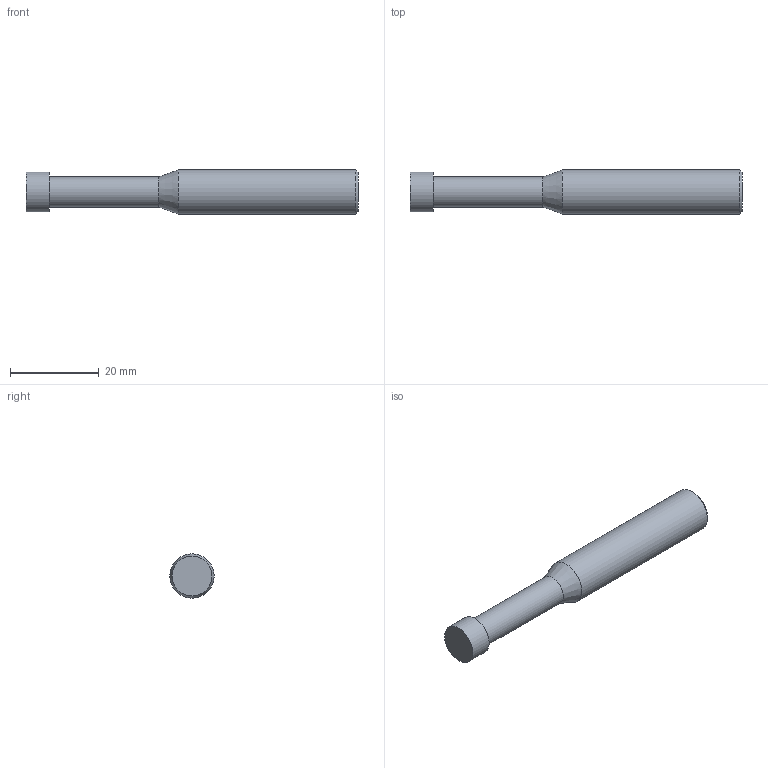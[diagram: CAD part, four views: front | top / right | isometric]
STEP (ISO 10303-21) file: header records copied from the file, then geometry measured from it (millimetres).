
FILE_DESCRIPTION(/* description */ (''),/* implementation_level */ '2;1');
FILE_NAME(/* name */ 'HSXDT-1.75-30 1075.stp',/* time_stamp */ '2026-02-26T15:36:37+08:00',/* author */ (''),/* organization */ (''),/* preprocessor_version */ 'ST-DEVELOPER v16',/* originating_system */ 'SIEMENS PLM Software NX 10.0',/* authorisation */ '');
FILE_SCHEMA (('CONFIG_CONTROL_DESIGN'));
Length unit declared in the file: millimetre
Products named in the file (1): HSXDT-1.75-30 1075_dxf
Bounding box: 75 x 10 x 10 mm (x, y, z)
Volume: 4664.6 mm3; surface area: 2236.2 mm2
Topology: 1 solids, 1 shells, 8 faces, 12 edges, 7 vertices
Faces by surface type: plane 3, cylinder 3, cone 2
Full cylindrical faces by diameter (mm): 6.8 x1, 9 x1, 10 x1
Entity records: 238 total; most frequent: DIRECTION 32, CARTESIAN_POINT 23, AXIS2_PLACEMENT_3D 16, EDGE_LOOP 14, ORIENTED_EDGE 14, FACE_BOUND 12, ADVANCED_FACE 8, PERSON_AND_ORGANIZATION 7
